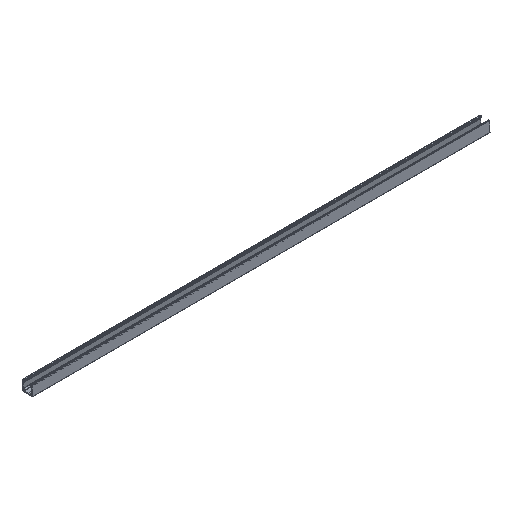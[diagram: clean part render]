
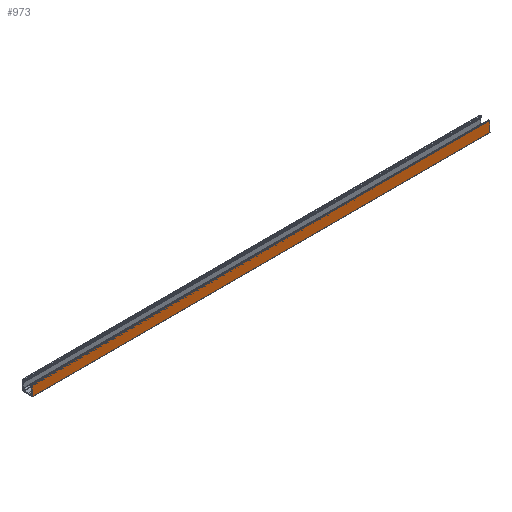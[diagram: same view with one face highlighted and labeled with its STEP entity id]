
A CAD part, isometric view. The second image highlights one B-rep face of the part: STEP entity #973.
In plain terms, the highlighted planar face has unit normal (0, -0.997, 0.073).
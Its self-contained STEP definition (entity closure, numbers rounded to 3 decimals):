
#73=FACE_OUTER_BOUND('',#125,.T.);
#125=EDGE_LOOP('',(#693,#694,#695,#696));
#189=LINE('',#1452,#305);
#190=LINE('',#1455,#306);
#191=LINE('',#1457,#307);
#192=LINE('',#1458,#308);
#305=VECTOR('',#1177,10.);
#306=VECTOR('',#1180,10.);
#307=VECTOR('',#1181,10.);
#308=VECTOR('',#1182,10.);
#421=VERTEX_POINT('',#1448);
#422=VERTEX_POINT('',#1450);
#423=VERTEX_POINT('',#1454);
#424=VERTEX_POINT('',#1456);
#529=EDGE_CURVE('',#421,#422,#189,.T.);
#530=EDGE_CURVE('',#423,#421,#190,.T.);
#531=EDGE_CURVE('',#424,#422,#191,.T.);
#532=EDGE_CURVE('',#423,#424,#192,.T.);
#693=ORIENTED_EDGE('',*,*,#530,.T.);
#694=ORIENTED_EDGE('',*,*,#529,.T.);
#695=ORIENTED_EDGE('',*,*,#531,.F.);
#696=ORIENTED_EDGE('',*,*,#532,.F.);
#931=PLANE('',#1049);
#973=ADVANCED_FACE('',(#73),#931,.T.);
#1049=AXIS2_PLACEMENT_3D('',#1453,#1178,#1179);
#1177=DIRECTION('',(1.,0.,0.));
#1178=DIRECTION('center_axis',(0.,-0.997,0.073));
#1179=DIRECTION('ref_axis',(0.,-0.073,-0.997));
#1180=DIRECTION('',(0.,-0.073,-0.997));
#1181=DIRECTION('',(0.,-0.073,-0.997));
#1182=DIRECTION('',(1.,0.,0.));
#1448=CARTESIAN_POINT('',(0.,-11.766,0.644));
#1450=CARTESIAN_POINT('',(1000.,-11.766,0.644));
#1452=CARTESIAN_POINT('',(0.,-11.766,0.644));
#1453=CARTESIAN_POINT('Origin',(0.,-10.175,22.46));
#1454=CARTESIAN_POINT('',(0.,-10.175,22.46));
#1455=CARTESIAN_POINT('',(0.,-10.175,22.46));
#1456=CARTESIAN_POINT('',(1000.,-10.175,22.46));
#1457=CARTESIAN_POINT('',(1000.,-10.175,22.46));
#1458=CARTESIAN_POINT('',(0.,-10.175,22.46));
